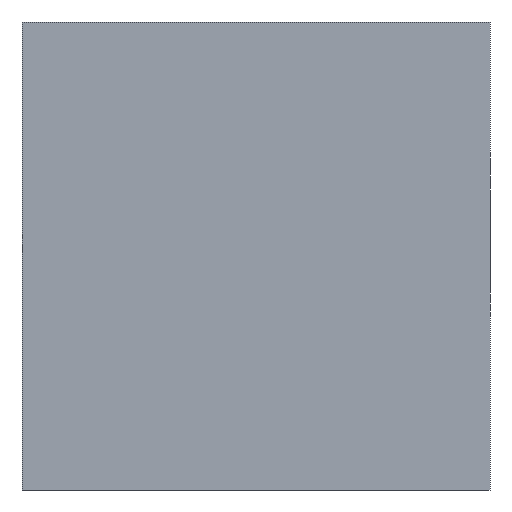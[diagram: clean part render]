
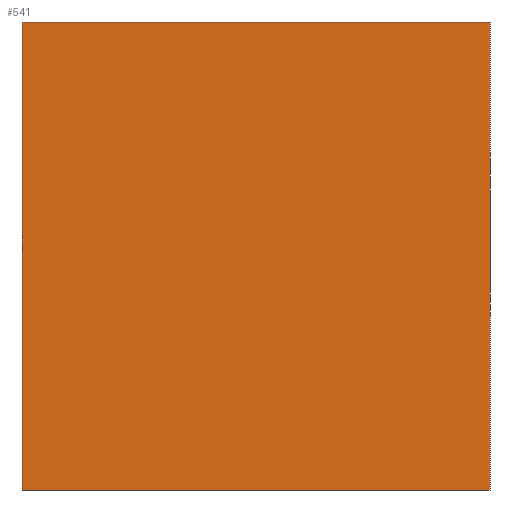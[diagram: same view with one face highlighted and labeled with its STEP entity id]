
A CAD part, front view. The second image highlights one B-rep face of the part: STEP entity #541.
In plain terms, the highlighted planar face has unit normal (0, -1, 0).
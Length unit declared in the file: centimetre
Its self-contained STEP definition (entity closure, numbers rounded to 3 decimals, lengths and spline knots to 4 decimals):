
#1 = CARTESIAN_POINT ( 'NONE',  ( 0., 0., 1000. ) ) ;
#32 = EDGE_CURVE ( 'NONE', #71, #422, #84, .T. ) ;
#57 = CARTESIAN_POINT ( 'NONE',  ( 0., 0., 1000. ) ) ;
#69 = ORIENTED_EDGE ( 'NONE', *, *, #162, .T. ) ;
#71 = VERTEX_POINT ( 'NONE', #106 ) ;
#82 = ORIENTED_EDGE ( 'NONE', *, *, #32, .F. ) ;
#84 = LINE ( 'NONE', #218, #163 ) ;
#105 = CARTESIAN_POINT ( 'NONE',  ( 0., 0., 1000. ) ) ;
#106 = CARTESIAN_POINT ( 'NONE',  ( 1000., 0., 1000. ) ) ;
#158 = VECTOR ( 'NONE', #335, 100. ) ;
#162 = EDGE_CURVE ( 'NONE', #376, #443, #196, .T. ) ;
#163 = VECTOR ( 'NONE', #368, 100. ) ;
#165 = ORIENTED_EDGE ( 'NONE', *, *, #528, .F. ) ;
#183 = DIRECTION ( 'NONE',  ( 1., 0., 0. ) ) ;
#194 = FACE_OUTER_BOUND ( 'NONE', #284, .T. ) ;
#196 = LINE ( 'NONE', #518, #529 ) ;
#218 = CARTESIAN_POINT ( 'NONE',  ( 1000., 0., 1000. ) ) ;
#240 = PLANE ( 'NONE',  #584 ) ;
#284 = EDGE_LOOP ( 'NONE', ( #503, #82, #165, #69 ) ) ;
#318 = CARTESIAN_POINT ( 'NONE',  ( 0., 0., 0. ) ) ;
#335 = DIRECTION ( 'NONE',  ( 1., 0., 0. ) ) ;
#364 = CARTESIAN_POINT ( 'NONE',  ( 0., 0., 0. ) ) ;
#368 = DIRECTION ( 'NONE',  ( 0., 0., -1. ) ) ;
#371 = CARTESIAN_POINT ( 'NONE',  ( 1000., 0., 0. ) ) ;
#376 = VERTEX_POINT ( 'NONE', #1 ) ;
#381 = DIRECTION ( 'NONE',  ( 0., 0., -1. ) ) ;
#417 = LINE ( 'NONE', #105, #158 ) ;
#420 = EDGE_CURVE ( 'NONE', #443, #422, #588, .T. ) ;
#422 = VERTEX_POINT ( 'NONE', #371 ) ;
#443 = VERTEX_POINT ( 'NONE', #318 ) ;
#503 = ORIENTED_EDGE ( 'NONE', *, *, #420, .T. ) ;
#513 = DIRECTION ( 'NONE',  ( 0., 0., 1. ) ) ;
#516 = DIRECTION ( 'NONE',  ( 0., 1., 0. ) ) ;
#518 = CARTESIAN_POINT ( 'NONE',  ( 0., 0., 1000. ) ) ;
#523 = VECTOR ( 'NONE', #183, 100. ) ;
#528 = EDGE_CURVE ( 'NONE', #376, #71, #417, .T. ) ;
#529 = VECTOR ( 'NONE', #381, 100. ) ;
#541 = ADVANCED_FACE ( 'NONE', ( #194 ), #240, .F. ) ;
#584 = AXIS2_PLACEMENT_3D ( 'NONE', #57, #516, #513 ) ;
#588 = LINE ( 'NONE', #364, #523 ) ;
